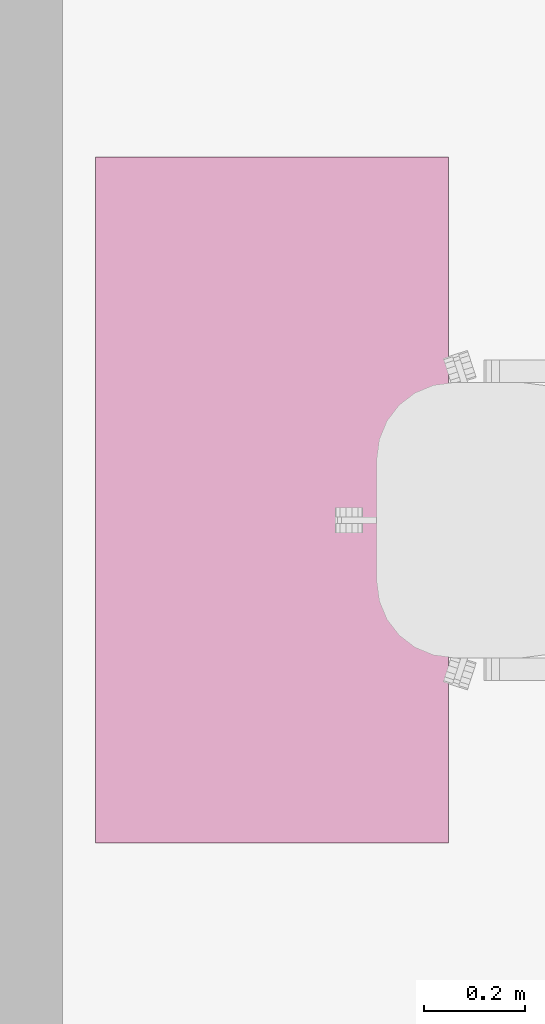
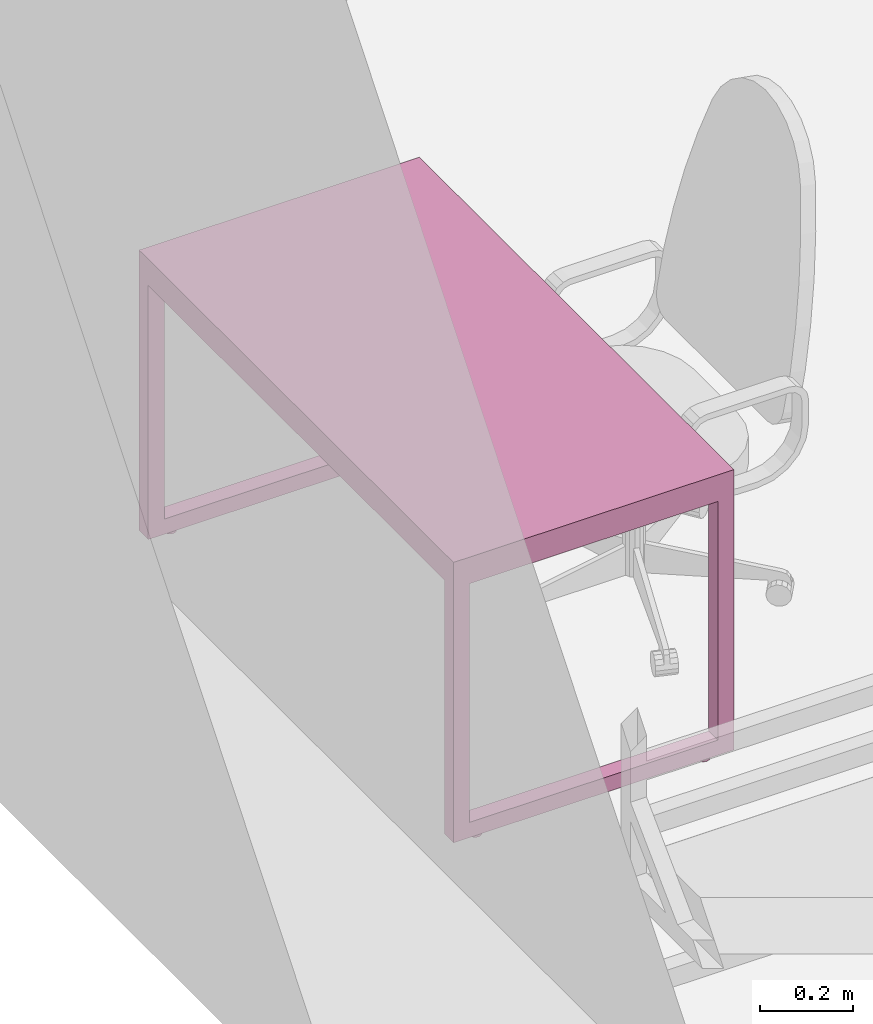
# One storey, part 24 of 48: 1 furnishing.
"""IFC2X3 building model written with IfcOpenShell, lengths in millimetres."""

from ifc_helpers import new_model, entity, si_unit, converted_unit, derived_unit, direction, frame, origin, place, context, subcontext, project, spatial, faceted_brep, source, transform, mapped, material, material_list, type_object, type_shapes, element, save


model = new_model("IFC2X3")

# Units and contexts
model_context = context("Model", 3, precision=0.01, world=origin(), true_north=direction((6.12303176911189e-17, 1.0)))
body_context = subcontext(model_context, "Body", "Model", "MODEL_VIEW")
ifc_project = project(units=[si_unit("LENGTHUNIT", "METRE", prefix="MILLI"), si_unit("AREAUNIT", "SQUARE_METRE"), si_unit("VOLUMEUNIT", "CUBIC_METRE"), converted_unit("PLANEANGLEUNIT", "DEGREE", entity("IfcRatioMeasure", 0.0174532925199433), si_unit("PLANEANGLEUNIT", "RADIAN"), dimensions=[0, 0, 0, 0, 0, 0, 0]), si_unit("MASSUNIT", "GRAM", prefix="KILO"), derived_unit("MASSDENSITYUNIT", [(si_unit("MASSUNIT", "GRAM", prefix="KILO"), 1), (si_unit("LENGTHUNIT", "METRE"), -3)]), si_unit("TIMEUNIT", "SECOND"), si_unit("FREQUENCYUNIT", "HERTZ"), si_unit("THERMODYNAMICTEMPERATUREUNIT", "DEGREE_CELSIUS"), derived_unit("THERMALTRANSMITTANCEUNIT", [(si_unit("MASSUNIT", "GRAM", prefix="KILO"), 1), (si_unit("THERMODYNAMICTEMPERATUREUNIT", "KELVIN"), -1), (si_unit("TIMEUNIT", "SECOND"), -3)]), derived_unit("VOLUMETRICFLOWRATEUNIT", [(si_unit("LENGTHUNIT", "METRE"), 3), (si_unit("TIMEUNIT", "SECOND"), -1)]), si_unit("ELECTRICCURRENTUNIT", "AMPERE"), si_unit("ELECTRICVOLTAGEUNIT", "VOLT"), si_unit("POWERUNIT", "WATT"), si_unit("FORCEUNIT", "NEWTON", prefix="KILO"), si_unit("ILLUMINANCEUNIT", "LUX"), si_unit("LUMINOUSFLUXUNIT", "LUMEN"), si_unit("LUMINOUSINTENSITYUNIT", "CANDELA"), derived_unit("USERDEFINED", [(si_unit("MASSUNIT", "GRAM", prefix="KILO"), -1), (si_unit("LENGTHUNIT", "METRE"), -2), (si_unit("TIMEUNIT", "SECOND"), 3), (si_unit("LUMINOUSFLUXUNIT", "LUMEN"), 1)]), derived_unit("LINEARVELOCITYUNIT", [(si_unit("LENGTHUNIT", "METRE"), 1), (si_unit("TIMEUNIT", "SECOND"), -1)]), si_unit("PRESSUREUNIT", "PASCAL"), derived_unit("USERDEFINED", [(si_unit("LENGTHUNIT", "METRE"), -2), (si_unit("MASSUNIT", "GRAM", prefix="KILO"), 1), (si_unit("TIMEUNIT", "SECOND"), -2)]), derived_unit("LINEARFORCEUNIT", [(si_unit("MASSUNIT", "GRAM", prefix="KILO"), 1), (si_unit("LENGTHUNIT", "METRE"), 1), (si_unit("TIMEUNIT", "SECOND"), -2), (si_unit("LENGTHUNIT", "METRE"), -1)]), derived_unit("PLANARFORCEUNIT", [(si_unit("MASSUNIT", "GRAM", prefix="KILO"), 1), (si_unit("LENGTHUNIT", "METRE"), 1), (si_unit("TIMEUNIT", "SECOND"), -2), (si_unit("LENGTHUNIT", "METRE"), -2)])], contexts=[model_context])

# Site, building, storey, space
site_placement = place(None, origin())
site = spatial("IfcSite", under=ifc_project, at=site_placement, Name="Default", CompositionType="ELEMENT")
building_placement = place(site_placement, origin())
building = spatial("IfcBuilding", under=site, at=building_placement, Name="SMA ARH", CompositionType="ELEMENT")
storey_placement = place(building_placement, frame((0.0, 0.0, 3300.0)))
storey = spatial("IfcBuildingStorey", under=building, at=storey_placement, Name="2 Korrus", CompositionType="ELEMENT", Elevation=3299.99999999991)
space_placement = place(storey_placement, origin())
space = spatial("IfcSpace", under=storey, at=space_placement, Name="2-15", CompositionType="ELEMENT", InteriorOrExteriorSpace="INTERNAL")

# Furnishing
ifc_material = material(Name="<Unnamed>")
ifc_material_list = material_list([ifc_material, ifc_material])
furniture_type = type_object("IfcFurnitureType", Name="kirjutuslaud 1360x700mm:kirjutuslaud 1360x700mm", material=ifc_material_list)
shared_shape = source(origin(), body_context, "Body", "Brep", [
    faceted_brep([(680.0, -350.0, 720.0), (680.0, 350.0, 720.0), (680.0, 350.0, 750.0), (680.0, -350.0, 750.0), (-680.0, -350.0, 720.0), (-680.0, -350.0, 750.0), (-680.0, 350.0, 750.0), (-680.0, 350.0, 720.0)], [[[0, 1, 2, 3]], [[4, 5, 6, 7]], [[1, 0, 4, 7]], [[2, 1, 7, 6]], [[3, 2, 6, 5]], [[0, 3, 5, 4]]]),
    faceted_brep([(-640.0, -310.0, 680.0), (-640.0, 310.0, 680.0), (-640.0, 310.0, 720.0), (-640.0, -310.0, 720.0), (-680.0, -350.0, 720.0), (-680.0, 350.0, 720.0), (-680.0, 350.0, 10.0), (-680.0, -350.0, 10.0), (-680.0, 310.0, 680.0), (-680.0, -310.0, 680.0), (-680.0, -310.0, 50.0), (-680.0, 310.0, 50.0), (-640.0, -350.0, 10.0), (-640.0, -350.0, 680.0), (640.0, -350.0, 680.0), (640.0, -350.0, 10.0), (680.0, -350.0, 10.0), (680.0, -350.0, 720.0), (-640.0, 350.0, 10.0), (680.0, 350.0, 720.0), (680.0, 350.0, 10.0), (640.0, 350.0, 10.0), (640.0, 350.0, 680.0), (-640.0, 350.0, 680.0), (640.0, 310.0, 720.0), (640.0, -310.0, 720.0), (-640.0, 310.0, 50.0), (-640.0, -310.0, 50.0), (640.0, -310.0, 680.0), (640.0, 310.0, 680.0), (680.0, 310.0, 680.0), (680.0, 310.0, 50.0), (680.0, -310.0, 50.0), (680.0, -310.0, 680.0), (640.0, -310.0, 50.0), (640.0, 310.0, 50.0)], [[[0, 1, 2, 3]], [[4, 5, 6, 7], [8, 9, 10, 11]], [[4, 7, 12, 13, 14, 15, 16, 17]], [[18, 12, 7, 6]], [[6, 5, 19, 20, 21, 22, 23, 18]], [[19, 5, 4, 17], [2, 24, 25, 3]], [[26, 1, 8, 11]], [[27, 26, 11, 10]], [[0, 27, 10, 9]], [[1, 0, 9, 8]], [[14, 13, 0, 28]], [[24, 2, 1, 29]], [[3, 25, 28, 0]], [[17, 16, 20, 19], [30, 31, 32, 33]], [[21, 15, 14, 28, 34, 35, 29, 22]], [[20, 16, 15, 21]], [[31, 30, 29, 35]], [[32, 31, 35, 34]], [[33, 32, 34, 28]], [[30, 33, 28, 29]], [[29, 28, 25, 24]], [[29, 1, 23, 22]], [[12, 18, 23, 1, 26, 27, 0, 13]]]),
    faceted_brep([(-663.729456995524, -270.466136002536, 0.0), (-659.847171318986, -269.955023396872, 0.0), (-655.964885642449, -270.466136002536, 0.0), (-652.347171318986, -271.964642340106, 0.0), (-649.240569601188, -274.348421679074, 0.0), (-646.85679026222, -277.455023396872, 0.0), (-645.35828392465, -281.072737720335, 0.0), (-644.847171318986, -284.955023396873, 0.0), (-645.35828392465, -288.83730907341, 0.0), (-646.85679026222, -292.455023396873, 0.0), (-649.240569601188, -295.561625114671, 0.0), (-652.347171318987, -297.945404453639, 0.0), (-655.964885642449, -299.443910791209, 0.0), (-659.847171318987, -299.955023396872, 0.0), (-663.729456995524, -299.443910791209, 0.0), (-667.347171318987, -297.945404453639, 0.0), (-670.453773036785, -295.561625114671, 0.0), (-672.837552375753, -292.455023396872, 0.0), (-674.336058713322, -288.83730907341, 0.0), (-674.847171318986, -284.955023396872, 0.0), (-674.336058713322, -281.072737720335, 0.0), (-672.837552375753, -277.455023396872, 0.0), (-670.453773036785, -274.348421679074, 0.0), (-667.347171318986, -271.964642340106, 0.0), (-655.964885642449, -299.443910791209, 10.0), (-652.347171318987, -297.945404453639, 10.0), (-649.240569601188, -295.561625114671, 10.0), (-646.85679026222, -292.455023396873, 10.0), (-645.35828392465, -288.83730907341, 10.0), (-644.847171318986, -284.955023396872, 10.0), (-645.35828392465, -281.072737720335, 10.0), (-646.85679026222, -277.455023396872, 10.0), (-649.240569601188, -274.348421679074, 10.0), (-652.347171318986, -271.964642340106, 10.0), (-655.964885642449, -270.466136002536, 10.0), (-659.847171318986, -269.955023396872, 10.0), (-663.729456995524, -270.466136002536, 10.0), (-667.347171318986, -271.964642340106, 10.0), (-670.453773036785, -274.348421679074, 10.0), (-672.837552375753, -277.455023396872, 10.0), (-674.336058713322, -281.072737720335, 10.0), (-674.847171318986, -284.955023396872, 10.0), (-674.336058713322, -288.83730907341, 10.0), (-672.837552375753, -292.455023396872, 10.0), (-670.453773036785, -295.561625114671, 10.0), (-667.347171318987, -297.945404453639, 10.0), (-663.729456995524, -299.443910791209, 10.0), (-659.847171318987, -299.955023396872, 10.0)], [[[0, 1, 2, 3, 4, 5, 6, 7, 8, 9, 10, 11, 12, 13, 14, 15, 16, 17, 18, 19, 20, 21, 22, 23]], [[24, 25, 26, 27, 28, 29, 30, 31, 32, 33, 34, 35, 36, 37, 38, 39, 40, 41, 42, 43, 44, 45, 46, 47]], [[18, 42, 41, 19]], [[17, 43, 42, 18]], [[45, 44, 16, 15]], [[17, 16, 44, 43]], [[46, 45, 15, 14]], [[47, 46, 14, 13]], [[12, 24, 47, 13]], [[11, 25, 24, 12]], [[27, 26, 10, 9]], [[11, 10, 26, 25]], [[28, 27, 9, 8]], [[29, 28, 8, 7]], [[6, 30, 29, 7]], [[5, 31, 30, 6]], [[33, 32, 4, 3]], [[5, 4, 32, 31]], [[34, 33, 3, 2]], [[35, 34, 2, 1]], [[0, 36, 35, 1]], [[23, 37, 36, 0]], [[39, 38, 22, 21]], [[23, 22, 38, 37]], [[40, 39, 21, 20]], [[41, 40, 20, 19]]]),
    faceted_brep([(-655.964885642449, 270.466136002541, 10.0), (-652.347171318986, 271.964642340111, 10.0), (-649.240569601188, 274.348421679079, 10.0), (-646.85679026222, 277.455023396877, 10.0), (-645.35828392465, 281.07273772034, 10.0), (-644.847171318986, 284.955023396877, 10.0), (-645.35828392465, 288.837309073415, 10.0), (-646.85679026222, 292.455023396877, 10.0), (-649.240569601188, 295.561625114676, 10.0), (-652.347171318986, 297.945404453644, 10.0), (-655.964885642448, 299.443910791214, 10.0), (-659.847171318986, 299.955023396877, 10.0), (-663.729456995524, 299.443910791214, 10.0), (-667.347171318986, 297.945404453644, 10.0), (-670.453773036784, 295.561625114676, 10.0), (-672.837552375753, 292.455023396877, 10.0), (-674.336058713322, 288.837309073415, 10.0), (-674.847171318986, 284.955023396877, 10.0), (-674.336058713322, 281.07273772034, 10.0), (-672.837552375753, 277.455023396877, 10.0), (-670.453773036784, 274.348421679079, 10.0), (-667.347171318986, 271.964642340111, 10.0), (-663.729456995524, 270.466136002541, 10.0), (-659.847171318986, 269.955023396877, 10.0), (-655.964885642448, 299.443910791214, 0.0), (-652.347171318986, 297.945404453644, 0.0), (-649.240569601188, 295.561625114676, 0.0), (-646.85679026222, 292.455023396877, 0.0), (-645.35828392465, 288.837309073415, 0.0), (-644.847171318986, 284.955023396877, 0.0), (-645.35828392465, 281.07273772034, 0.0), (-646.85679026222, 277.455023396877, 0.0), (-649.240569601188, 274.348421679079, 0.0), (-652.347171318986, 271.964642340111, 0.0), (-655.964885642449, 270.466136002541, 0.0), (-659.847171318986, 269.955023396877, 0.0), (-663.729456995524, 270.466136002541, 0.0), (-667.347171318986, 271.964642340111, 0.0), (-670.453773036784, 274.348421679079, 0.0), (-672.837552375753, 277.455023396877, 0.0), (-674.336058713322, 281.07273772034, 0.0), (-674.847171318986, 284.955023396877, 0.0), (-674.336058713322, 288.837309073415, 0.0), (-672.837552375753, 292.455023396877, 0.0), (-670.453773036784, 295.561625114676, 0.0), (-667.347171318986, 297.945404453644, 0.0), (-663.729456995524, 299.443910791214, 0.0), (-659.847171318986, 299.955023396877, 0.0)], [[[0, 1, 2, 3, 4, 5, 6, 7, 8, 9, 10, 11, 12, 13, 14, 15, 16, 17, 18, 19, 20, 21, 22, 23]], [[24, 25, 26, 27, 28, 29, 30, 31, 32, 33, 34, 35, 36, 37, 38, 39, 40, 41, 42, 43, 44, 45, 46, 47]], [[40, 18, 17, 41]], [[39, 19, 18, 40]], [[21, 20, 38, 37]], [[39, 38, 20, 19]], [[22, 21, 37, 36]], [[23, 22, 36, 35]], [[34, 0, 23, 35]], [[33, 1, 0, 34]], [[3, 2, 32, 31]], [[33, 32, 2, 1]], [[4, 3, 31, 30]], [[5, 4, 30, 29]], [[28, 6, 5, 29]], [[27, 7, 6, 28]], [[9, 8, 26, 25]], [[27, 26, 8, 7]], [[10, 9, 25, 24]], [[11, 10, 24, 47]], [[46, 12, 11, 47]], [[45, 13, 12, 46]], [[15, 14, 44, 43]], [[45, 44, 14, 13]], [[16, 15, 43, 42]], [[17, 16, 42, 41]]]),
    faceted_brep([(656.270543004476, -270.466136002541, 0.0), (660.152828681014, -269.955023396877, 0.0), (664.035114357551, -270.466136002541, 0.0), (667.652828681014, -271.96464234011, 0.0), (670.759430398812, -274.348421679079, 0.0), (673.14320973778, -277.455023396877, 0.0), (674.64171607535, -281.072737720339, 0.0), (675.152828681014, -284.955023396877, 0.0), (674.64171607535, -288.837309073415, 0.0), (673.14320973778, -292.455023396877, 0.0), (670.759430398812, -295.561625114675, 0.0), (667.652828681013, -297.945404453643, 0.0), (664.035114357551, -299.443910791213, 0.0), (660.152828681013, -299.955023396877, 0.0), (656.270543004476, -299.443910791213, 0.0), (652.652828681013, -297.945404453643, 0.0), (649.546226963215, -295.561625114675, 0.0), (647.162447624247, -292.455023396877, 0.0), (645.663941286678, -288.837309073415, 0.0), (645.152828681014, -284.955023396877, 0.0), (645.663941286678, -281.072737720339, 0.0), (647.162447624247, -277.455023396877, 0.0), (649.546226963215, -274.348421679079, 0.0), (652.652828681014, -271.96464234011, 0.0), (664.035114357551, -299.443910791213, 10.0), (667.652828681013, -297.945404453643, 10.0), (670.759430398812, -295.561625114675, 10.0), (673.14320973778, -292.455023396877, 10.0), (674.64171607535, -288.837309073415, 10.0), (675.152828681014, -284.955023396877, 10.0), (674.64171607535, -281.072737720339, 10.0), (673.14320973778, -277.455023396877, 10.0), (670.759430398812, -274.348421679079, 10.0), (667.652828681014, -271.96464234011, 10.0), (664.035114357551, -270.466136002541, 10.0), (660.152828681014, -269.955023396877, 10.0), (656.270543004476, -270.466136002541, 10.0), (652.652828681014, -271.96464234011, 10.0), (649.546226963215, -274.348421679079, 10.0), (647.162447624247, -277.455023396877, 10.0), (645.663941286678, -281.072737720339, 10.0), (645.152828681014, -284.955023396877, 10.0), (645.663941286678, -288.837309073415, 10.0), (647.162447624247, -292.455023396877, 10.0), (649.546226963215, -295.561625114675, 10.0), (652.652828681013, -297.945404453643, 10.0), (656.270543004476, -299.443910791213, 10.0), (660.152828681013, -299.955023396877, 10.0)], [[[0, 1, 2, 3, 4, 5, 6, 7, 8, 9, 10, 11, 12, 13, 14, 15, 16, 17, 18, 19, 20, 21, 22, 23]], [[24, 25, 26, 27, 28, 29, 30, 31, 32, 33, 34, 35, 36, 37, 38, 39, 40, 41, 42, 43, 44, 45, 46, 47]], [[18, 42, 41, 19]], [[17, 43, 42, 18]], [[45, 44, 16, 15]], [[17, 16, 44, 43]], [[46, 45, 15, 14]], [[47, 46, 14, 13]], [[12, 24, 47, 13]], [[11, 25, 24, 12]], [[27, 26, 10, 9]], [[11, 10, 26, 25]], [[28, 27, 9, 8]], [[29, 28, 8, 7]], [[6, 30, 29, 7]], [[5, 31, 30, 6]], [[33, 32, 4, 3]], [[5, 4, 32, 31]], [[34, 33, 3, 2]], [[35, 34, 2, 1]], [[0, 36, 35, 1]], [[23, 37, 36, 0]], [[39, 38, 22, 21]], [[23, 22, 38, 37]], [[40, 39, 21, 20]], [[41, 40, 20, 19]]]),
    faceted_brep([(664.035114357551, 270.466136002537, 10.0), (667.652828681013, 271.964642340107, 10.0), (670.759430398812, 274.348421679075, 10.0), (673.14320973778, 277.455023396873, 10.0), (674.64171607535, 281.072737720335, 10.0), (675.152828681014, 284.955023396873, 10.0), (674.64171607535, 288.837309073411, 10.0), (673.14320973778, 292.455023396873, 10.0), (670.759430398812, 295.561625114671, 10.0), (667.652828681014, 297.94540445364, 10.0), (664.035114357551, 299.443910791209, 10.0), (660.152828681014, 299.955023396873, 10.0), (656.270543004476, 299.443910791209, 10.0), (652.652828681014, 297.94540445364, 10.0), (649.546226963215, 295.561625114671, 10.0), (647.162447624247, 292.455023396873, 10.0), (645.663941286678, 288.837309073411, 10.0), (645.152828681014, 284.955023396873, 10.0), (645.663941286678, 281.072737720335, 10.0), (647.162447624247, 277.455023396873, 10.0), (649.546226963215, 274.348421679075, 10.0), (652.652828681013, 271.964642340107, 10.0), (656.270543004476, 270.466136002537, 10.0), (660.152828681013, 269.955023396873, 10.0), (664.035114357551, 299.443910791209, 0.0), (667.652828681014, 297.94540445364, 0.0), (670.759430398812, 295.561625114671, 0.0), (673.14320973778, 292.455023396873, 0.0), (674.64171607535, 288.837309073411, 0.0), (675.152828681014, 284.955023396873, 0.0), (674.64171607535, 281.072737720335, 0.0), (673.14320973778, 277.455023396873, 0.0), (670.759430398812, 274.348421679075, 0.0), (667.652828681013, 271.964642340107, 0.0), (664.035114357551, 270.466136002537, 0.0), (660.152828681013, 269.955023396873, 0.0), (656.270543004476, 270.466136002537, 0.0), (652.652828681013, 271.964642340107, 0.0), (649.546226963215, 274.348421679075, 0.0), (647.162447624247, 277.455023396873, 0.0), (645.663941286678, 281.072737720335, 0.0), (645.152828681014, 284.955023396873, 0.0), (645.663941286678, 288.837309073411, 0.0), (647.162447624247, 292.455023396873, 0.0), (649.546226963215, 295.561625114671, 0.0), (652.652828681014, 297.94540445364, 0.0), (656.270543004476, 299.443910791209, 0.0), (660.152828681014, 299.955023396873, 0.0)], [[[0, 1, 2, 3, 4, 5, 6, 7, 8, 9, 10, 11, 12, 13, 14, 15, 16, 17, 18, 19, 20, 21, 22, 23]], [[24, 25, 26, 27, 28, 29, 30, 31, 32, 33, 34, 35, 36, 37, 38, 39, 40, 41, 42, 43, 44, 45, 46, 47]], [[40, 18, 17, 41]], [[39, 19, 18, 40]], [[21, 20, 38, 37]], [[39, 38, 20, 19]], [[22, 21, 37, 36]], [[23, 22, 36, 35]], [[34, 0, 23, 35]], [[33, 1, 0, 34]], [[3, 2, 32, 31]], [[33, 32, 2, 1]], [[4, 3, 31, 30]], [[5, 4, 30, 29]], [[28, 6, 5, 29]], [[27, 7, 6, 28]], [[9, 8, 26, 25]], [[27, 26, 8, 7]], [[10, 9, 25, 24]], [[11, 10, 24, 47]], [[46, 12, 11, 47]], [[45, 13, 12, 46]], [[15, 14, 44, 43]], [[45, 44, 14, 13]], [[16, 15, 43, 42]], [[17, 16, 42, 41]]]),
])
type_shapes(furniture_type, [shared_shape])
furnishing_placement = place(space_placement, frame((415.923761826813, 3801.8985721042, 0.0), z_axis=(0.0, 0.0, 1.0), x_axis=(0.0, -1.0, 0.0)))
element("IfcFurnishingElement", 1, at=furnishing_placement, inside=space, type_object=furniture_type, Name="kirjutuslaud 1360x700mm:kirjutuslaud 1360x700mm", ObjectType="kirjutuslaud 1360x700mm:kirjutuslaud 1360x700mm", context=body_context, shape_type="MappedRepresentation", body=[
    mapped(shared_shape, transform((0.0, 0.0, 0.0), scale=1.0)),
])

save(model, "model.ifc")
